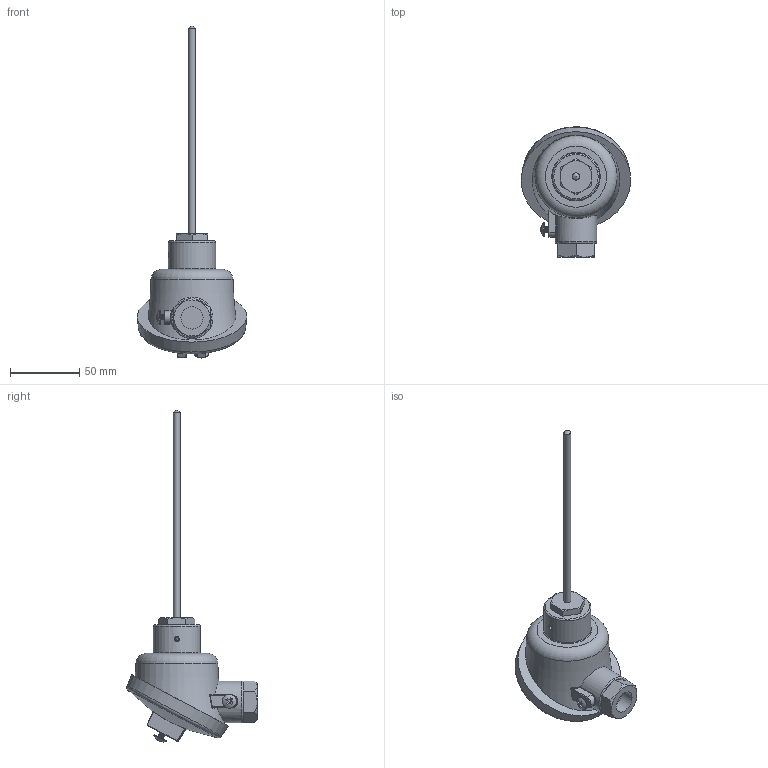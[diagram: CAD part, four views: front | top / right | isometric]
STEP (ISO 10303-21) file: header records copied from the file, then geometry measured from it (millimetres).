
FILE_DESCRIPTION (( 'STEP AP203' ), '1' );
FILE_NAME ('YIR35-2(0).STEP', '2025-01-27T02:43:03', ( '' ), ( '' ), 'SwSTEP 2.0', 'SolidWorks 2021', '' );
FILE_SCHEMA (( 'CONFIG_CONTROL_DESIGN' ));
Length unit declared in the file: millimetre
Products named in the file (1): YIR35-2(0)
Bounding box: 78.98 x 94.09 x 239.52 mm (x, y, z)
Volume: 202373.5 mm3; surface area: 27383.2 mm2
Topology: 1 solids, 2 shells, 195 faces, 478 edges, 296 vertices
Faces by surface type: plane 86, cylinder 47, bspline 24, cone 19, torus 11, sphere 8
Full cylindrical faces by diameter (mm): 3.5 x4, 3.6 x1, 3.8 x10, 5 x1, 10 x2, 16 x1, 18.6 x1, 20.5 x1, 30 x1, 34 x1
Entity records: 8334 total; most frequent: CARTESIAN_POINT 4581, ORIENTED_EDGE 768, DIRECTION 692, EDGE_CURVE 384, AXIS2_PLACEMENT_3D 269, VERTEX_POINT 247, EDGE_LOOP 223, FACE_OUTER_BOUND 202
